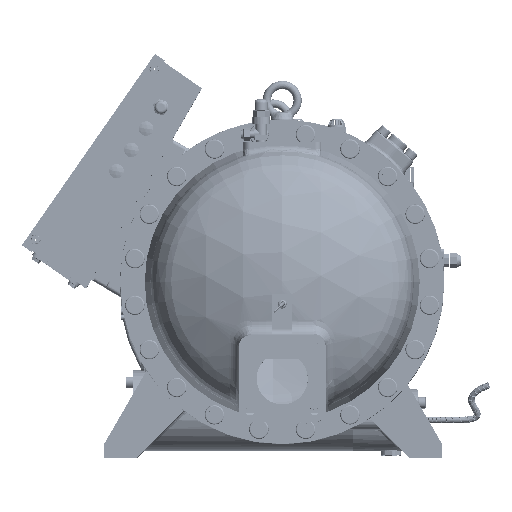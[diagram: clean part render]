
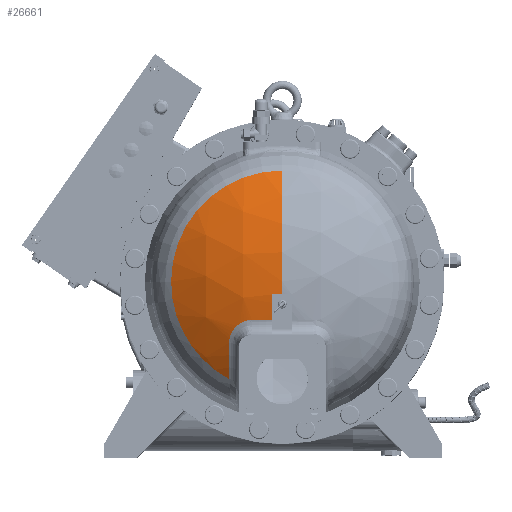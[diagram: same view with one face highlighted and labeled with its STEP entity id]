
A CAD part, top view. The second image highlights one B-rep face of the part: STEP entity #26661.
In plain terms, the highlighted spherical face has radius 319 mm.
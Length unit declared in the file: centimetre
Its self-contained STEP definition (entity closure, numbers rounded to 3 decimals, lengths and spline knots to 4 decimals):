
#697 = AXIS2_PLACEMENT_3D ( 'NONE', #24144, #100809, #35176 ) ;
#2716 = DIRECTION ( 'NONE',  ( 0., 0., -1. ) ) ;
#3489 = AXIS2_PLACEMENT_3D ( 'NONE', #134363, #68639, #2716 ) ;
#4112 = CARTESIAN_POINT ( 'NONE',  ( 1.4, 1.4, 5.25 ) ) ;
#4679 = CARTESIAN_POINT ( 'NONE',  ( -0.1, -0.6, 37.0519 ) ) ;
#4870 = FACE_OUTER_BOUND ( 'NONE', #80948, .T. ) ;
#8382 = CARTESIAN_POINT ( 'NONE',  ( -6.7641, -7.5971, 34.7469 ) ) ;
#8855 = CARTESIAN_POINT ( 'NONE',  ( -6.0787, -5.9244, 35.3846 ) ) ;
#9321 = CARTESIAN_POINT ( 'NONE',  ( -4.3623, -4.7051, 36.0256 ) ) ;
#9837 = CARTESIAN_POINT ( 'NONE',  ( 1.4, 1.4, 37.15 ) ) ;
#12432 = CARTESIAN_POINT ( 'NONE',  ( 1.4, -4.5283, 5.25 ) ) ;
#13671 = ORIENTED_EDGE ( 'NONE', *, *, #102274, .T. ) ;
#15222 = DIRECTION ( 'NONE',  ( 0., 0., 1. ) ) ;
#16488 = VERTEX_POINT ( 'NONE', #91807 ) ;
#18480 = CARTESIAN_POINT ( 'NONE',  ( -6.7867, -8.0571, 34.5954 ) ) ;
#18534 = DIRECTION ( 'NONE',  ( 1., 0., 0. ) ) ;
#19471 = CARTESIAN_POINT ( 'NONE',  ( -6.6959, -7.2594, 34.8656 ) ) ;
#19561 = ORIENTED_EDGE ( 'NONE', *, *, #71882, .F. ) ;
#19949 = CARTESIAN_POINT ( 'NONE',  ( -5.6957, -5.5032, 35.5753 ) ) ;
#20418 = CARTESIAN_POINT ( 'NONE',  ( -4.0796, -4.6233, 36.0934 ) ) ;
#20654 = CIRCLE ( 'NONE', #21625, 31.9 ) ;
#21625 = AXIS2_PLACEMENT_3D ( 'NONE', #4112, #80976, #15222 ) ;
#22518 = DIRECTION ( 'NONE',  ( 0., 1., 0. ) ) ;
#22847 = DIRECTION ( 'NONE',  ( 1., 0., 0. ) ) ;
#22995 = CARTESIAN_POINT ( 'NONE',  ( 1.4, 1.4, 5.25 ) ) ;
#23566 = DIRECTION ( 'NONE',  ( -1., 0., 0. ) ) ;
#23719 = DIRECTION ( 'NONE',  ( 1., 0., 0. ) ) ;
#23743 = DIRECTION ( 'NONE',  ( 0., 1., 0. ) ) ;
#23919 = CARTESIAN_POINT ( 'NONE',  ( 1.4, -0.6, 5.25 ) ) ;
#24144 = CARTESIAN_POINT ( 'NONE',  ( 1.4, 1.4, 32.1643 ) ) ;
#26488 = AXIS2_PLACEMENT_3D ( 'NONE', #39463, #116163, #50640 ) ;
#26566 = CARTESIAN_POINT ( 'NONE',  ( -6.7867, -13.6402, 32.1643 ) ) ;
#26661 = ADVANCED_FACE ( 'NONE', ( #4870 ), #30786, .T. ) ;
#30285 = CIRCLE ( 'NONE', #697, 17.1239 ) ;
#30568 = CARTESIAN_POINT ( 'NONE',  ( -6.6531, -7.0934, 34.9253 ) ) ;
#30786 = SPHERICAL_SURFACE ( 'NONE', #43181, 31.9 ) ;
#31040 = CARTESIAN_POINT ( 'NONE',  ( -5.4787, -5.3141, 35.6674 ) ) ;
#31500 = CARTESIAN_POINT ( 'NONE',  ( -3.4989, -4.5283, 36.2101 ) ) ;
#33995 = CIRCLE ( 'NONE', #109490, 31.8372 ) ;
#35176 = DIRECTION ( 'NONE',  ( -1., 0., 0. ) ) ;
#39463 = CARTESIAN_POINT ( 'NONE',  ( -0.1, 1.4, 5.25 ) ) ;
#39948 = EDGE_CURVE ( 'NONE', #46360, #63080, #33995, .T. ) ;
#40675 = EDGE_CURVE ( 'NONE', #55481, #16488, #74963, .T. ) ;
#41693 = CARTESIAN_POINT ( 'NONE',  ( -6.5659, -6.8233, 35.0249 ) ) ;
#42176 = CARTESIAN_POINT ( 'NONE',  ( -5.3408, -5.208, 35.7215 ) ) ;
#42562 = AXIS2_PLACEMENT_3D ( 'NONE', #140453, #140291, #139992 ) ;
#43181 = AXIS2_PLACEMENT_3D ( 'NONE', #22995, #22847, #22518 ) ;
#44593 = ORIENTED_EDGE ( 'NONE', *, *, #132679, .T. ) ;
#46360 = VERTEX_POINT ( 'NONE', #4679 ) ;
#50640 = DIRECTION ( 'NONE',  ( 0., 0., -1. ) ) ;
#52373 = CARTESIAN_POINT ( 'NONE',  ( -6.7867, -7.8255, 34.67 ) ) ;
#52848 = CARTESIAN_POINT ( 'NONE',  ( -6.4322, -6.5113, 35.1447 ) ) ;
#53305 = CARTESIAN_POINT ( 'NONE',  ( -5.0552, -5.0115, 35.826 ) ) ;
#55481 = VERTEX_POINT ( 'NONE', #26566 ) ;
#63080 = VERTEX_POINT ( 'NONE', #89287 ) ;
#63330 = ORIENTED_EDGE ( 'NONE', *, *, #134389, .T. ) ;
#63540 = CIRCLE ( 'NONE', #3489, 30.8316 ) ;
#63779 = CARTESIAN_POINT ( 'NONE',  ( -6.3249, -6.3108, 35.2247 ) ) ;
#64244 = CARTESIAN_POINT ( 'NONE',  ( -4.5836, -4.7862, 35.9671 ) ) ;
#68639 = DIRECTION ( 'NONE',  ( -1., 0., 0. ) ) ;
#71021 = EDGE_CURVE ( 'NONE', #16488, #138882, #30285, .T. ) ;
#71882 = EDGE_CURVE ( 'NONE', #136048, #63080, #124472, .T. ) ;
#74641 = CARTESIAN_POINT ( 'NONE',  ( -6.2363, -6.1637, 35.2848 ) ) ;
#74963 = CIRCLE ( 'NONE', #42562, 17.1239 ) ;
#75098 = CARTESIAN_POINT ( 'NONE',  ( -4.4184, -4.7241, 36.0113 ) ) ;
#77983 = CARTESIAN_POINT ( 'NONE',  ( 1.4, 18.5239, 32.1643 ) ) ;
#80277 = ORIENTED_EDGE ( 'NONE', *, *, #39948, .T. ) ;
#80948 = EDGE_LOOP ( 'NONE', ( #19561, #13671, #84492, #116555, #44593, #98148, #63330, #112092, #80277 ) ) ;
#80976 = DIRECTION ( 'NONE',  ( -1., 0., 0. ) ) ;
#81751 = VERTEX_POINT ( 'NONE', #125823 ) ;
#84318 = CARTESIAN_POINT ( 'NONE',  ( 1.4, 1.4, 5.25 ) ) ;
#84492 = ORIENTED_EDGE ( 'NONE', *, *, #71021, .F. ) ;
#85235 = CARTESIAN_POINT ( 'NONE',  ( -6.7084, -7.3155, 34.8457 ) ) ;
#85645 = VERTEX_POINT ( 'NONE', #18480 ) ;
#85701 = CARTESIAN_POINT ( 'NONE',  ( -5.9356, -5.7474, 35.4621 ) ) ;
#86174 = CARTESIAN_POINT ( 'NONE',  ( -4.1935, -4.6525, 36.0673 ) ) ;
#89250 = DIRECTION ( 'NONE',  ( 0., 1., 0. ) ) ;
#89287 = CARTESIAN_POINT ( 'NONE',  ( 1.4, -0.6, 37.0872 ) ) ;
#91807 = CARTESIAN_POINT ( 'NONE',  ( -15.7239, 1.4, 32.1643 ) ) ;
#92899 = AXIS2_PLACEMENT_3D ( 'NONE', #12432, #89250, #23566 ) ;
#93330 = CARTESIAN_POINT ( 'NONE',  ( -0.1, -4.5283, 36.5584 ) ) ;
#95283 = DIRECTION ( 'NONE',  ( 0., 0., -1. ) ) ;
#96215 = CARTESIAN_POINT ( 'NONE',  ( -6.6682, -7.1483, 34.9054 ) ) ;
#96678 = CARTESIAN_POINT ( 'NONE',  ( -5.6115, -5.4253, 35.6124 ) ) ;
#97151 = CARTESIAN_POINT ( 'NONE',  ( -3.7342, -4.5527, 36.1672 ) ) ;
#98148 = ORIENTED_EDGE ( 'NONE', *, *, #104747, .T. ) ;
#100809 = DIRECTION ( 'NONE',  ( 0., 0., -1. ) ) ;
#102274 = EDGE_CURVE ( 'NONE', #136048, #138882, #20654, .T. ) ;
#104747 = EDGE_CURVE ( 'NONE', #85645, #81751, #127741, .T. ) ;
#107318 = CARTESIAN_POINT ( 'NONE',  ( -6.6038, -6.93, 34.9851 ) ) ;
#107807 = CARTESIAN_POINT ( 'NONE',  ( -5.4332, -5.2779, 35.6856 ) ) ;
#108269 = CARTESIAN_POINT ( 'NONE',  ( -3.258, -4.5283, 36.2463 ) ) ;
#109490 = AXIS2_PLACEMENT_3D ( 'NONE', #23919, #23743, #23719 ) ;
#112092 = ORIENTED_EDGE ( 'NONE', *, *, #115031, .T. ) ;
#114831 = CIRCLE ( 'NONE', #92899, 31.3443 ) ;
#115031 = EDGE_CURVE ( 'NONE', #130864, #46360, #116512, .T. ) ;
#116163 = DIRECTION ( 'NONE',  ( -1., 0., 0. ) ) ;
#116512 = CIRCLE ( 'NONE', #26488, 31.8647 ) ;
#116555 = ORIENTED_EDGE ( 'NONE', *, *, #40675, .F. ) ;
#117909 = CARTESIAN_POINT ( 'NONE',  ( -6.7867, -8.0571, 34.5954 ) ) ;
#118373 = CARTESIAN_POINT ( 'NONE',  ( -6.4801, -6.6139, 35.1047 ) ) ;
#118854 = CARTESIAN_POINT ( 'NONE',  ( -5.2938, -5.1742, 35.7391 ) ) ;
#124472 = CIRCLE ( 'NONE', #127849, 31.9 ) ;
#125823 = CARTESIAN_POINT ( 'NONE',  ( -3.258, -4.5283, 36.2463 ) ) ;
#127741 = B_SPLINE_CURVE_WITH_KNOTS ( 'NONE', 3,
 ( #117909, #52373, #8382, #85235, #19471, #96215, #30568, #107318, #41693, #118373, #52848, #129404, #63779, #140512, #74641, #8855, #85701, #19949, #96678, #31040, #107807, #42176, #118854, #53305, #129875, #64244, #140983, #75098, #9321, #86174, #20418, #97151, #31500, #108269 ),
 .UNSPECIFIED., .F., .F.,
 ( 4, 2, 2, 2, 2, 2, 2, 2, 2, 2, 2, 2, 2, 2, 2, 2, 4 ),
 ( 0., 0.0073, 0.0091, 0.0109, 0.0145, 0.0182, 0.02, 0.0218, 0.029, 0.0327, 0.0345, 0.0363, 0.0436, 0.0454, 0.0472, 0.0508, 0.0581 ),
 .UNSPECIFIED. ) ;
#127849 = AXIS2_PLACEMENT_3D ( 'NONE', #84318, #18534, #95283 ) ;
#129404 = CARTESIAN_POINT ( 'NONE',  ( -6.3527, -6.3606, 35.2047 ) ) ;
#129875 = CARTESIAN_POINT ( 'NONE',  ( -4.8524, -4.9004, 35.8912 ) ) ;
#130864 = VERTEX_POINT ( 'NONE', #93330 ) ;
#132679 = EDGE_CURVE ( 'NONE', #55481, #85645, #63540, .T. ) ;
#134363 = CARTESIAN_POINT ( 'NONE',  ( -6.7867, 1.4, 5.25 ) ) ;
#134389 = EDGE_CURVE ( 'NONE', #81751, #130864, #114831, .T. ) ;
#136048 = VERTEX_POINT ( 'NONE', #9837 ) ;
#138882 = VERTEX_POINT ( 'NONE', #77983 ) ;
#139992 = DIRECTION ( 'NONE',  ( -1., 0., 0. ) ) ;
#140291 = DIRECTION ( 'NONE',  ( 0., 0., -1. ) ) ;
#140453 = CARTESIAN_POINT ( 'NONE',  ( 1.4, 1.4, 32.1643 ) ) ;
#140512 = CARTESIAN_POINT ( 'NONE',  ( -6.2668, -6.2125, 35.2647 ) ) ;
#140983 = CARTESIAN_POINT ( 'NONE',  ( -4.529, -4.7647, 35.982 ) ) ;
